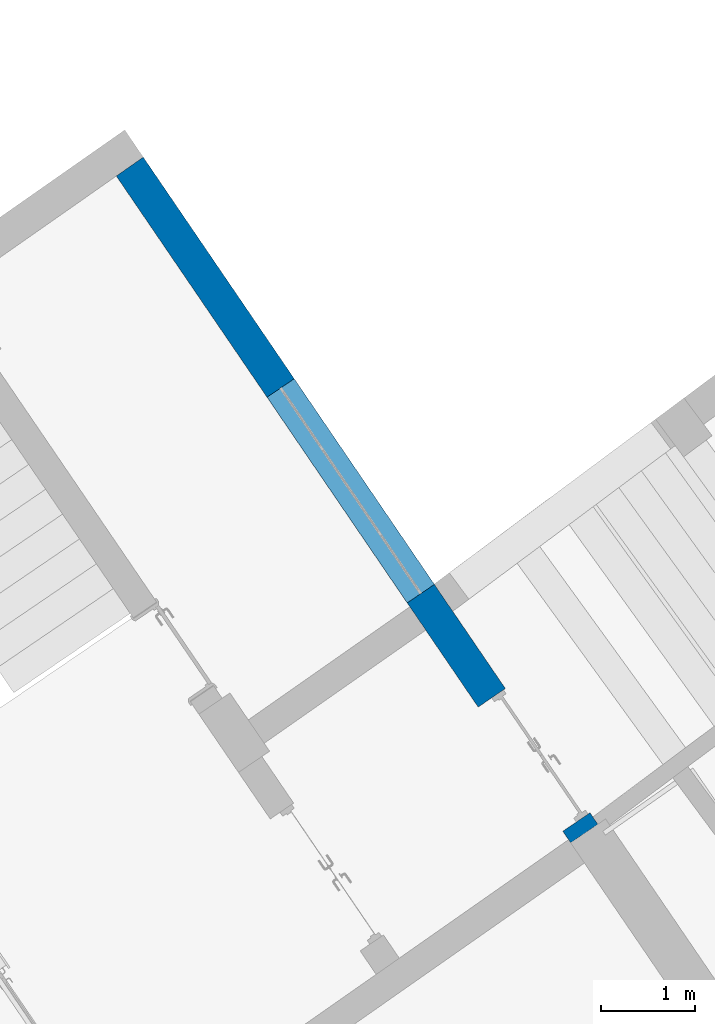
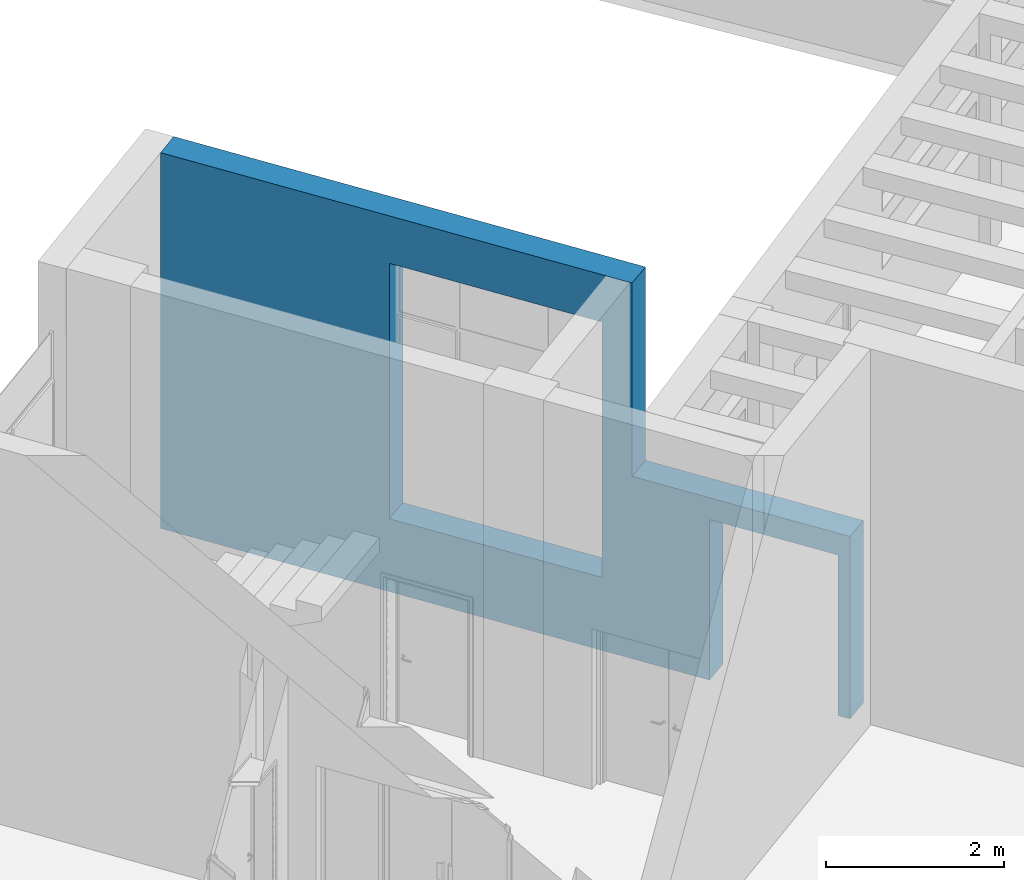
# One storey, part 132 of 157: 1 wall, 2 openings.
"""IFC2X3 building model written with IfcOpenShell, lengths in millimetres."""

import ifcopenshell
import ifcopenshell.guid

model = None  # the IFC model being written
_history = None  # IfcOwnerHistory: only IFC2X3 demands one
_inside = {}  # id of a spatial element -> (the spatial element, [elements in it])
_under = {}  # id of a project, library or spatial element -> (it, [spatial elements below it])
_declared = {}  # id of a project -> (the project, [libraries it declares])
_typed = {}  # id of a type object -> (the type object, [elements of that type])
_made_of = {}  # id of a material, layer set ... -> (it, [elements and type objects made of it])


def new_model(schema):
    """Start an empty IFC model of exactly this schema.

    Asked for "IFC4X3", IfcOpenShell would pick the latest addendum, in which some entities
    have other attributes; the version numbers below select the first issue.
    IFC2X3 requires an IfcOwnerHistory on every rooted entity: one is made here for all.
    """
    global model, _history
    if schema == "IFC4X3":
        model = ifcopenshell.file(schema_version=(4, 3, 0, 0))
    else:
        model = ifcopenshell.file(schema=schema)
    _inside.clear()
    _under.clear()
    _declared.clear()
    _typed.clear()
    _made_of.clear()
    _history = None
    if model.schema == "IFC2X3":
        org = make("IfcOrganization", Name="unknown")
        user = make(
            "IfcPersonAndOrganization",
            ThePerson=make("IfcPerson", FamilyName="unknown"),
            TheOrganization=org,
        )
        app = make(
            "IfcApplication",
            ApplicationDeveloper=org,
            Version="unknown",
            ApplicationFullName="unknown",
            ApplicationIdentifier="unknown",
        )
        _history = make(
            "IfcOwnerHistory",
            OwningUser=user,
            OwningApplication=app,
            ChangeAction="ADDED",
            CreationDate=0,
        )
    return model


def make(cls, **values):
    """One entity of the class cls with the attributes given. An attribute that is None is left unset."""
    return model.create_entity(
        cls, **{name: value for name, value in values.items() if value is not None}
    )


def entity(cls, *values):
    """Any entity or typed value of the class cls, its attributes in the order of the schema. None: left unset."""
    e = model.create_entity(cls)
    for i, value in enumerate(values):
        if value is not None:
            e[i] = value
    return e


def rooted(cls, **values):
    """An entity with a GlobalId (a new one), such as an element, a storey or a relation."""
    return make(cls, GlobalId=ifcopenshell.guid.new(), OwnerHistory=_history, **values)


def si_unit(unit_type, name, prefix=None):
    """IfcSIUnit, for example si_unit("LENGTHUNIT", "METRE", prefix="MILLI")."""
    return make("IfcSIUnit", UnitType=unit_type, Prefix=prefix, Name=name)


def converted_unit(unit_type, name, factor, base, dimensions=None, offset=None):
    """IfcConversionBasedUnit, such as the inch: factor (a typed value) times the base unit."""
    return make(
        "IfcConversionBasedUnit"
        if offset is None
        else "IfcConversionBasedUnitWithOffset",
        ConversionOffset=offset,
        Dimensions=None
        if dimensions is None
        else entity("IfcDimensionalExponents", *dimensions),
        UnitType=unit_type,
        Name=name,
        ConversionFactor=make(
            "IfcMeasureWithUnit", ValueComponent=factor, UnitComponent=base
        ),
    )


def derived_unit(unit_type, elements):
    """IfcDerivedUnit: a product of units, each with its exponent."""
    return make(
        "IfcDerivedUnit",
        Elements=[
            make("IfcDerivedUnitElement", Unit=unit, Exponent=power)
            for unit, power in elements
        ],
        UnitType=unit_type,
    )


def assignment(units):
    """IfcUnitAssignment: the units of a project."""
    return None if units is None else make("IfcUnitAssignment", Units=units)


def point(xyz):
    """IfcCartesianPoint."""
    return None if xyz is None else make("IfcCartesianPoint", Coordinates=xyz)


def direction(xyz):
    """IfcDirection."""
    return None if xyz is None else make("IfcDirection", DirectionRatios=xyz)


def frame(location, z_axis=None, x_axis=None):
    """IfcAxis2Placement3D, a coordinate frame: its origin and axes. An axis left out is left unset."""
    return make(
        "IfcAxis2Placement3D",
        Location=point(location),
        Axis=direction(z_axis),
        RefDirection=direction(x_axis),
    )


def frame_2d(location, x_axis=None):
    """IfcAxis2Placement2D, a coordinate frame in the plane: its origin and x axis."""
    return make(
        "IfcAxis2Placement2D", Location=point(location), RefDirection=direction(x_axis)
    )


def origin():
    """The frame at (0, 0, 0) with its axes left unset."""
    return frame((0.0, 0.0, 0.0))


def place(relative_to, where):
    """IfcLocalPlacement: puts the frame where relative to a parent placement (None: the world)."""
    return make(
        "IfcLocalPlacement", PlacementRelTo=relative_to, RelativePlacement=where
    )


def context(
    kind, dimensions, precision=None, world=None, true_north=None, identifier=None
):
    """IfcGeometricRepresentationContext, for example the 3D "Model" context."""
    return make(
        "IfcGeometricRepresentationContext",
        ContextIdentifier=identifier,
        ContextType=kind,
        CoordinateSpaceDimension=dimensions,
        Precision=precision,
        WorldCoordinateSystem=world,
        TrueNorth=true_north,
    )


def subcontext(parent, identifier, kind, view, scale=None):
    """IfcGeometricRepresentationSubContext, for example "Body" below "Model"."""
    return make(
        "IfcGeometricRepresentationSubContext",
        ContextIdentifier=identifier,
        ContextType=kind,
        ParentContext=parent,
        TargetScale=scale,
        TargetView=view,
    )


def project(units=None, contexts=None):
    """IfcProject with its units and contexts."""
    return rooted(
        "IfcProject",
        Name="project",
        RepresentationContexts=contexts,
        UnitsInContext=assignment(units),
    )


def spatial(cls, under=None, at=None, **own):
    """A site, building, storey or space (cls), placed at a placement, below another one or the project."""
    s = rooted(cls, ObjectPlacement=at, **own)
    if under is not None:
        _under.setdefault(under.id(), (under, []))[1].append(s)
    return s


def profile(cls, at=None, kind="AREA", **sizes):
    """A parametric profile (cls). Its sizes go by their IFC names, for example OverallWidth=200.0."""
    return make(cls, ProfileType=kind, Position=at, **sizes)


def rectangle(**sizes):
    """IfcRectangleProfileDef."""
    return profile("IfcRectangleProfileDef", **sizes)


def extrude(swept, where, along, depth):
    """IfcExtrudedAreaSolid: the profile swept, set in the frame where, extruded along a direction by depth."""
    return make(
        "IfcExtrudedAreaSolid",
        SweptArea=swept,
        Position=where,
        ExtrudedDirection=direction(along),
        Depth=depth,
    )


def faces_of(points, faces, orient=None, outer=None):
    """IfcFace entities. A face is a list of loops; a loop is a list of indices into points, from 0.

    orient and outer hold one flag for each loop. By default every Orientation is true, the
    first loop of a face is its IfcFaceOuterBound and the others are IfcFaceBound.
    """
    made = []
    for i, loops in enumerate(faces):
        bounds = []
        for j, loop in enumerate(loops):
            is_outer = j == 0 if outer is None else outer[i][j]
            bounds.append(
                make(
                    "IfcFaceOuterBound" if is_outer else "IfcFaceBound",
                    Bound=make("IfcPolyLoop", Polygon=[points[k] for k in loop]),
                    Orientation=True if orient is None else orient[i][j],
                )
            )
        made.append(make("IfcFace", Bounds=bounds))
    return made


def faceted_brep(points, faces, orient=None, outer=None, voids=None):
    """IfcFacetedBrep: a solid bounded by flat faces; with voids (closed shells), ...WithVoids."""
    shared = [point(p) for p in points]
    hull = make("IfcClosedShell", CfsFaces=faces_of(shared, faces, orient, outer))
    if voids is None:
        return make("IfcFacetedBrep", Outer=hull)
    return make(
        "IfcFacetedBrepWithVoids",
        Outer=hull,
        Voids=[
            make(cls, CfsFaces=faces_of(shared, fs, o, b)) for cls, fs, o, b in voids
        ],
    )


def shape(context_of_items, identifier, shape_type, items):
    """IfcShapeRepresentation: the items that make up one representation, for example the "Body"."""
    return make(
        "IfcShapeRepresentation",
        ContextOfItems=context_of_items,
        RepresentationIdentifier=identifier,
        RepresentationType=shape_type,
        Items=items,
    )


def material(Name=None, Category=None):
    """IfcMaterial."""
    return make("IfcMaterial", Name=Name, Category=Category)


def layer(
    of_material, thickness, ventilated=None, Name=None, Category=None, Priority=None
):
    """IfcMaterialLayer: one layer of a wall or slab, of a material (None: an air gap)."""
    return make(
        "IfcMaterialLayer",
        Material=of_material,
        LayerThickness=thickness,
        IsVentilated=ventilated,
        Name=Name,
        Category=Category,
        Priority=Priority,
    )


def layer_set(layers, Name=None):
    """IfcMaterialLayerSet."""
    return make("IfcMaterialLayerSet", MaterialLayers=layers, LayerSetName=Name)


def made_of(thing, what):
    """Note that an element or type object is made of a material, layer set ...; save() writes the relation."""
    if what is not None:
        _made_of.setdefault(what.id(), (what, []))[1].append(thing)
    return thing


def type_object(cls, material=None, **own):
    """A type object (cls), such as IfcWallType, which elements share."""
    return made_of(rooted(cls, **own), material)


def element(
    cls,
    number,
    at=None,
    inside=None,
    cuts=None,
    type_object=None,
    material=None,
    context=None,
    identifier="Body",
    shape_type=None,
    held_by="IfcProductDefinitionShape",
    body=None,
    shapes=None,
    **own,
):
    """One element of the class cls, such as IfcWall. Its Tag is "e" and its number.

    at: its placement. inside: the storey or other place that contains it. cuts: it is an
    opening in that element (IfcRelVoidsElement). A single representation is given by context,
    identifier, shape_type and body (its items); several are given by shapes. held_by: the class
    of the entity that holds the representations. save() writes the other relations.
    """
    e = rooted(cls, Tag="e%d" % number, ObjectPlacement=at, **own)
    if body is not None:
        shapes = [shape(context, identifier, shape_type, body)]
    if shapes is not None:
        e.Representation = make(held_by, Representations=shapes)
    if inside is not None:
        _inside.setdefault(inside.id(), (inside, []))[1].append(e)
    if cuts is not None:
        rooted(
            "IfcRelVoidsElement", RelatingBuildingElement=cuts, RelatedOpeningElement=e
        )
    if type_object is not None:
        _typed.setdefault(type_object.id(), (type_object, []))[1].append(e)
    return made_of(e, material)


def aggregate(whole, parts):
    """IfcRelAggregates: a whole, such as a stair, and the parts it consists of."""
    return rooted("IfcRelAggregates", RelatingObject=whole, RelatedObjects=parts)


def save(model, path):
    """Write the relations noted so far, then the file.

    IfcRelAggregates (storeys below a building ...), IfcRelContainedInSpatialStructure (elements
    in a storey), IfcRelDefinesByType, IfcRelAssociatesMaterial and IfcRelDeclares: one each for
    every whole, place, type object, material and project.
    """
    for whole, parts in _under.values():
        aggregate(whole, parts)
    for where, things in _inside.values():
        rooted(
            "IfcRelContainedInSpatialStructure",
            RelatedElements=things,
            RelatingStructure=where,
        )
    for kind, things in _typed.values():
        rooted("IfcRelDefinesByType", RelatedObjects=things, RelatingType=kind)
    for what, things in _made_of.values():
        rooted("IfcRelAssociatesMaterial", RelatedObjects=things, RelatingMaterial=what)
    for by, libraries in _declared.values():
        rooted("IfcRelDeclares", RelatingContext=by, RelatedDefinitions=libraries)
    model.write(path)


model = new_model("IFC2X3")

# Units and contexts
model_context = context("Model", 3, precision=0.01, world=origin(), true_north=direction((6.123031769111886e-17, 1.0)))
body_context = subcontext(model_context, "Body", "Model", "MODEL_VIEW")
ifc_project = project(units=[si_unit("LENGTHUNIT", "METRE", prefix="MILLI"), si_unit("AREAUNIT", "SQUARE_METRE"), si_unit("VOLUMEUNIT", "CUBIC_METRE"), converted_unit("PLANEANGLEUNIT", "DEGREE", entity("IfcRatioMeasure", 0.017453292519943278), si_unit("PLANEANGLEUNIT", "RADIAN"), dimensions=[0, 0, 0, 0, 0, 0, 0]), si_unit("MASSUNIT", "GRAM", prefix="KILO"), derived_unit("MASSDENSITYUNIT", [(si_unit("MASSUNIT", "GRAM", prefix="KILO"), 1), (si_unit("LENGTHUNIT", "METRE"), -3)]), derived_unit("MOMENTOFINERTIAUNIT", [(si_unit("LENGTHUNIT", "METRE"), 4)]), si_unit("TIMEUNIT", "SECOND"), si_unit("FREQUENCYUNIT", "HERTZ"), si_unit("THERMODYNAMICTEMPERATUREUNIT", "DEGREE_CELSIUS"), derived_unit("THERMALTRANSMITTANCEUNIT", [(si_unit("MASSUNIT", "GRAM", prefix="KILO"), 1), (si_unit("THERMODYNAMICTEMPERATUREUNIT", "KELVIN"), -1), (si_unit("TIMEUNIT", "SECOND"), -3)]), derived_unit("THERMALCONDUCTANCEUNIT", [(si_unit("MASSUNIT", "GRAM", prefix="KILO"), 1), (si_unit("LENGTHUNIT", "METRE"), 1), (si_unit("THERMODYNAMICTEMPERATUREUNIT", "KELVIN"), -1), (si_unit("TIMEUNIT", "SECOND"), -3)]), derived_unit("VOLUMETRICFLOWRATEUNIT", [(si_unit("LENGTHUNIT", "METRE"), 3), (si_unit("TIMEUNIT", "SECOND"), -1)]), derived_unit("MASSFLOWRATEUNIT", [(si_unit("MASSUNIT", "GRAM", prefix="KILO"), 1), (si_unit("TIMEUNIT", "SECOND"), -1)]), derived_unit("ROTATIONALFREQUENCYUNIT", [(si_unit("TIMEUNIT", "SECOND"), -1)]), si_unit("ELECTRICCURRENTUNIT", "AMPERE"), si_unit("ELECTRICVOLTAGEUNIT", "VOLT"), si_unit("POWERUNIT", "WATT"), converted_unit("FORCEUNIT", "KIP", entity("IfcRatioMeasure", 2.088543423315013e-05), si_unit("FORCEUNIT", "NEWTON"), dimensions=[1, 1, -2, 0, 0, 0, 0]), si_unit("ILLUMINANCEUNIT", "LUX"), si_unit("LUMINOUSFLUXUNIT", "LUMEN"), si_unit("LUMINOUSINTENSITYUNIT", "CANDELA"), derived_unit("USERDEFINED", [(si_unit("MASSUNIT", "GRAM", prefix="KILO"), -1), (si_unit("LENGTHUNIT", "METRE"), -2), (si_unit("TIMEUNIT", "SECOND"), 3), (si_unit("LUMINOUSFLUXUNIT", "LUMEN"), 1)]), derived_unit("USERDEFINED", [(si_unit("MASSUNIT", "GRAM", prefix="KILO"), 1), (si_unit("LENGTHUNIT", "METRE"), 3), (si_unit("TIMEUNIT", "SECOND"), -3), (si_unit("ELECTRICCURRENTUNIT", "AMPERE"), -2)]), derived_unit("USERDEFINED", [(si_unit("LENGTHUNIT", "METRE"), 2), (si_unit("TIMEUNIT", "SECOND"), -2)]), derived_unit("SOUNDPOWERUNIT", [(si_unit("MASSUNIT", "GRAM", prefix="KILO"), 1), (si_unit("LENGTHUNIT", "METRE"), 2), (si_unit("TIMEUNIT", "SECOND"), -3)]), derived_unit("SOUNDPRESSUREUNIT", [(si_unit("MASSUNIT", "GRAM", prefix="KILO"), 1), (si_unit("LENGTHUNIT", "METRE"), -1), (si_unit("TIMEUNIT", "SECOND"), -2)]), derived_unit("LINEARVELOCITYUNIT", [(si_unit("LENGTHUNIT", "METRE"), 1), (si_unit("TIMEUNIT", "SECOND"), -1)]), si_unit("PRESSUREUNIT", "PASCAL"), derived_unit("USERDEFINED", [(si_unit("LENGTHUNIT", "METRE"), -2), (si_unit("MASSUNIT", "GRAM", prefix="KILO"), 1), (si_unit("TIMEUNIT", "SECOND"), -2)]), derived_unit("LINEARFORCEUNIT", [(si_unit("MASSUNIT", "GRAM", prefix="KILO"), 1), (si_unit("LENGTHUNIT", "METRE"), 1), (si_unit("TIMEUNIT", "SECOND"), -2), (si_unit("LENGTHUNIT", "METRE"), -1)]), derived_unit("PLANARFORCEUNIT", [(si_unit("MASSUNIT", "GRAM", prefix="KILO"), 1), (si_unit("LENGTHUNIT", "METRE"), 1), (si_unit("TIMEUNIT", "SECOND"), -2), (si_unit("LENGTHUNIT", "METRE"), -2)]), derived_unit("SPECIFICHEATCAPACITYUNIT", [(si_unit("LENGTHUNIT", "METRE"), 2), (si_unit("TIMEUNIT", "SECOND"), -2), (si_unit("THERMODYNAMICTEMPERATUREUNIT", "KELVIN"), -1)]), derived_unit("VAPORPERMEABILITYUNIT", [(si_unit("TIMEUNIT", "SECOND"), 1), (si_unit("LENGTHUNIT", "METRE"), -1)]), derived_unit("DYNAMICVISCOSITYUNIT", [(si_unit("MASSUNIT", "GRAM", prefix="KILO"), 1), (si_unit("LENGTHUNIT", "METRE"), -1), (si_unit("TIMEUNIT", "SECOND"), -1)]), derived_unit("THERMALEXPANSIONCOEFFICIENTUNIT", [(si_unit("THERMODYNAMICTEMPERATUREUNIT", "KELVIN"), -1)])], contexts=[model_context])

# Site, building, storey
site_placement = place(None, frame((0.0, 0.0, 0.0), z_axis=(0.0, 0.0, 1.0), x_axis=(0.8191520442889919, 0.5735764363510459, 0.0)))
site = spatial("IfcSite", under=ifc_project, at=site_placement, Name="Default", CompositionType="ELEMENT")
building_placement = place(site_placement, origin())
building = spatial("IfcBuilding", under=site, at=building_placement, CompositionType="ELEMENT")
storey_placement = place(building_placement, origin())
storey = spatial("IfcBuildingStorey", under=building, at=storey_placement, Name="1.EG +0.00", CompositionType="ELEMENT", Elevation=-4.331468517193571e-12)

# Wall, openings
ifc_material = material(Name="Analytical Wall Surface_CJC")
ifc_layer = layer(ifc_material, 350.0)
ifc_layer_set = layer_set([ifc_layer], Name="Basic Wall:Wand_Aussen_35")
wall_type = type_object("IfcWallType", Name="Basic Wall:Wand_Aussen_35", PredefinedType="STANDARD", material=ifc_layer_set)
wall_placement = place(storey_placement, frame((-204196.46004691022, 172673.58659219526, 0.0), z_axis=(0.0, 0.0, 1.0), x_axis=(-0.012729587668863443, -0.999918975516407, 0.0)))
wall = element("IfcWall", 1, at=wall_placement, inside=storey, type_object=wall_type, Name="Basic Wall:Wand_Aussen_35", ObjectType="Basic Wall:Wand_Aussen_35", context=body_context, shape_type="Brep", body=[
    faceted_brep([(8595.856456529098, -175.0, 0.0), (8595.856456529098, -175.0, 2500.0), (5881.66384228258, -175.0, 2500.0), (5881.66384228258, -175.0, 5150.0), (5854.929748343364, -175.0, 5150.0), (5554.905439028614, -175.0, 5150.0), (4.455716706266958, -175.0, 5150.0), (4.455716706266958, -175.0, 0.0), (5554.905439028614, -175.0, 0.0), (5854.929748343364, -175.0, 0.0), (6846.354526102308, -175.0, 0.0), (6846.354526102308, -175.0, 2200.0), (8446.354526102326, -175.0, 2200.0), (8446.354526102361, -175.0, 0.0), (8555.148532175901, -175.0, 0.0), (2854.6866551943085, -175.0, 1000.0), (2854.6866551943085, -175.0, 4500.0), (5504.686655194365, -175.0, 4500.0), (5504.686655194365, -175.0, 1000.0), (8595.856456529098, 175.0, 2500.0), (8595.856456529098, 175.0, 0.0), (8446.354526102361, 175.0, 0.0), (8446.354526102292, 175.0, 2200.0), (6846.354526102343, 175.0, 2200.0), (6846.354526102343, 175.0, 0.0), (5850.752921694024, 175.0, 0.0), (5500.445670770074, 175.0, 0.0), (0.0, 175.0, 0.0), (0.0, 175.0, 5150.0), (5881.66384228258, 175.0, 5150.0), (5881.66384228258, 175.0, 2500.0), (8500.6887639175, 175.0, 2500.0), (2854.686655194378, 175.0, 1000.0), (5504.686655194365, 175.0, 1000.0), (5504.686655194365, 175.0, 4500.0), (2854.686655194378, 175.0, 4500.0)], [[[0, 1, 2, 3, 4, 5, 6, 7, 8, 9, 10, 11, 12, 13, 14], [15, 16, 17, 18]], [[19, 20, 21, 22, 23, 24, 25, 26, 27, 28, 29, 30, 31], [32, 33, 34, 35]], [[7, 6, 28, 27]], [[12, 22, 21, 13]], [[22, 12, 11, 23]], [[23, 11, 10, 24]], [[7, 27, 26, 25, 24, 10, 9, 8]], [[1, 0, 20, 19]], [[6, 5, 4, 3, 29, 28]], [[2, 1, 19, 31, 30]], [[3, 2, 30, 29]], [[16, 15, 32, 35]], [[17, 16, 35, 34]], [[18, 17, 34, 33]], [[15, 18, 33, 32]], [[20, 0, 14, 13, 21]]]),
])
opening_1_placement = place(wall_placement, frame((6846.354526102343, -175.0, 0.0)))
element("IfcOpeningElement", 2, at=opening_1_placement, cuts=wall, Name="M_Door-Passage-Double-Flush:150x210:1", ObjectType="Opening", context=body_context, shape_type="SweptSolid", body=[
    extrude(rectangle(XDim=2200.0, YDim=1599.999999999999, at=frame_2d((1100.0, 799.9999999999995), x_axis=(1.0, 0.0))), frame((0.0, 0.0, 0.0), z_axis=(0.0, 1.0, 0.0), x_axis=(0.0, 0.0, 1.0)), (0.0, 0.0, 1.0), 350.0),
])
opening_2_placement = place(wall_placement, frame((2854.6866551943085, -175.0, 1000.0)))
element("IfcOpeningElement", 3, at=opening_2_placement, cuts=wall, Name="Fenster_Aussen_CJC:Fenster_Aussen_CJC_265x350:1", ObjectType="Opening", context=body_context, shape_type="SweptSolid", body=[
    extrude(rectangle(XDim=3499.999999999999, YDim=2650.0, at=frame_2d((1749.9999999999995, 1325.000000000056), x_axis=(1.0, 0.0))), frame((0.0, 0.0, 0.0), z_axis=(0.0, 1.0, 0.0), x_axis=(0.0, 0.0, 1.0)), (0.0, 0.0, 1.0), 350.0),
])

save(model, "model.ifc")
